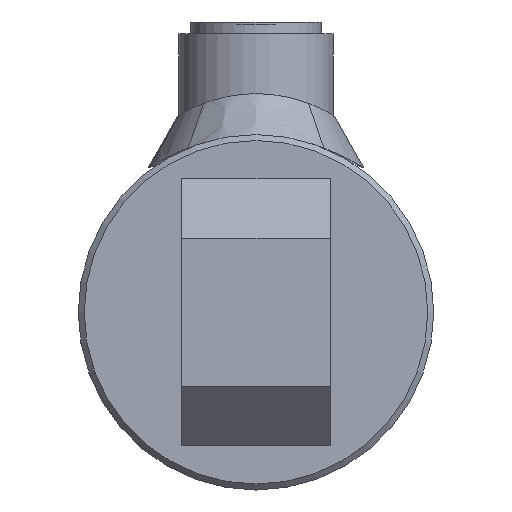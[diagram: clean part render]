
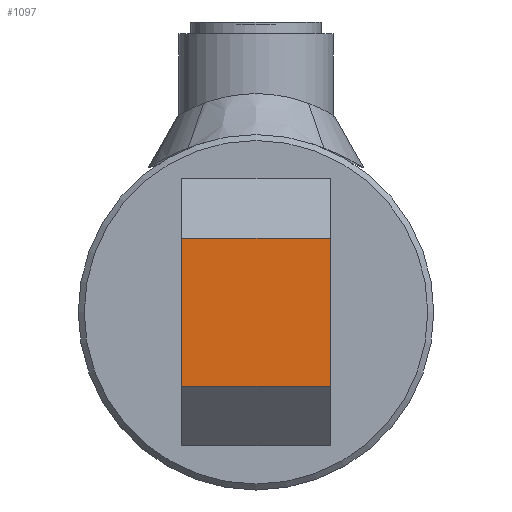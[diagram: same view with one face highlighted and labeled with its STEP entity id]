
A CAD part, left-side view. The second image highlights one B-rep face of the part: STEP entity #1097.
In plain terms, the highlighted planar face has unit normal (-1, 0, 0) as drawn and (1, 0, 0) by its records, which use the part's own axes.
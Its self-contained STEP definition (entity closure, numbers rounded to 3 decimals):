
#1097 = ADVANCED_FACE( '', ( #1494 ), #1495, .T. );
#1494 = FACE_OUTER_BOUND( '', #2912, .T. );
#1495 = PLANE( '', #2913 );
#2912 = EDGE_LOOP( '', ( #3440, #3441, #3442, #3443 ) );
#2913 = AXIS2_PLACEMENT_3D( '', #3444, #3445, #3446 );
#3440 = ORIENTED_EDGE( '', *, *, #3877, .T. );
#3441 = ORIENTED_EDGE( '', *, *, #3896, .T. );
#3442 = ORIENTED_EDGE( '', *, *, #3882, .T. );
#3443 = ORIENTED_EDGE( '', *, *, #3895, .T. );
#3444 = CARTESIAN_POINT( '', ( 50., -12.5, -22.5 ) );
#3445 = DIRECTION( '', ( 1., 0., 0. ) );
#3446 = DIRECTION( '', ( 0., 1., 0. ) );
#3877 = EDGE_CURVE( '', #4465, #4463, #4466, .T. );
#3882 = EDGE_CURVE( '', #4474, #4475, #4476, .T. );
#3895 = EDGE_CURVE( '', #4475, #4465, #4496, .T. );
#3896 = EDGE_CURVE( '', #4463, #4474, #4497, .T. );
#4463 = VERTEX_POINT( '', #5671 );
#4465 = VERTEX_POINT( '', #5674 );
#4466 = LINE( '', #5675, #5676 );
#4474 = VERTEX_POINT( '', #5687 );
#4475 = VERTEX_POINT( '', #5688 );
#4476 = LINE( '', #5689, #5690 );
#4496 = LINE( '', #5719, #5720 );
#4497 = LINE( '', #5721, #5722 );
#5671 = CARTESIAN_POINT( '', ( 50., 12.5, 12.5 ) );
#5674 = CARTESIAN_POINT( '', ( 50., 12.5, -12.5 ) );
#5675 = CARTESIAN_POINT( '', ( 50., 12.5, -22.5 ) );
#5676 = VECTOR( '', #6028, 1000. );
#5687 = CARTESIAN_POINT( '', ( 50., -12.5, 12.5 ) );
#5688 = CARTESIAN_POINT( '', ( 50., -12.5, -12.5 ) );
#5689 = CARTESIAN_POINT( '', ( 50., -12.5, 22.5 ) );
#5690 = VECTOR( '', #6035, 1000. );
#5719 = CARTESIAN_POINT( '', ( 50., 12.5, -12.5 ) );
#5720 = VECTOR( '', #6054, 1000. );
#5721 = CARTESIAN_POINT( '', ( 50., -12.5, 12.5 ) );
#5722 = VECTOR( '', #6055, 1000. );
#6028 = DIRECTION( '', ( 0., 0., 1. ) );
#6035 = DIRECTION( '', ( 0., 0., -1. ) );
#6054 = DIRECTION( '', ( 0., 1., 0. ) );
#6055 = DIRECTION( '', ( 0., -1., 0. ) );
